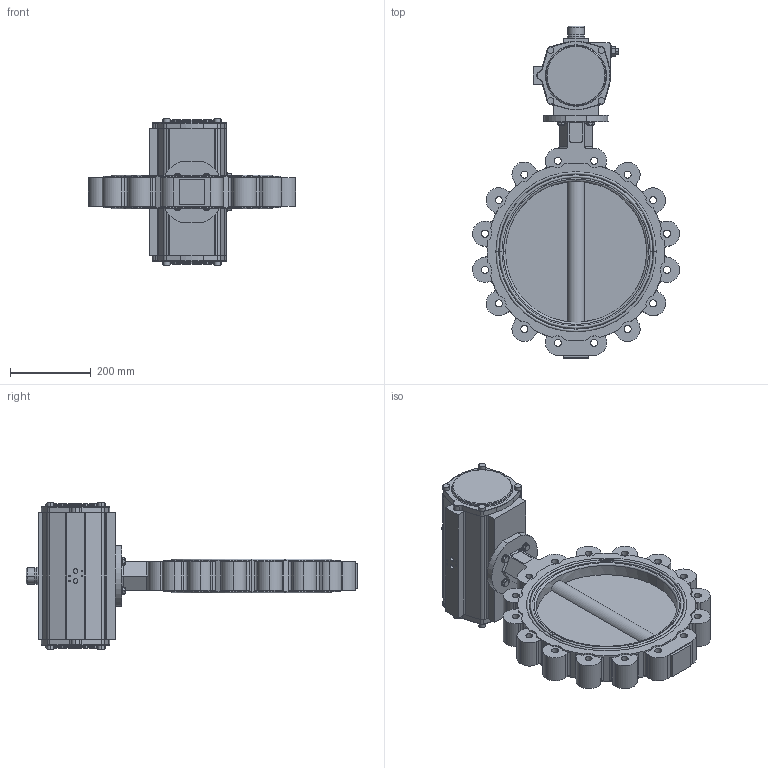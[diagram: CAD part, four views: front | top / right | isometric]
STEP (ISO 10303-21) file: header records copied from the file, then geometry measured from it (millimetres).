
FILE_DESCRIPTION (( 'STEP AP214' ), '1' );
FILE_NAME ('67718.step', '2020-10-26T07:28:14', ( '' ), ( '' ), 'SwSTEP 2.0', 'SolidWorks 2019', '' );
FILE_SCHEMA (( 'AUTOMOTIVE_DESIGN' ));
Length unit declared in the file: millimetre
Products named in the file (6): TL20-0350_M01; 6kt-Schr DIN 933_M10x30; Achtkantreduktion 27-22 mm; U-Scheibe DIN 125 A_M10; 67718; DA0850-V27_01
Assembly tree (11 placements, depth 2):
  67718
    TL20-0350_M01
    DA0850-V27_01
    6kt-Schr DIN 933_M10x30  x4
    U-Scheibe DIN 125 A_M10  x4
    Achtkantreduktion 27-22 mm
Bounding box: 513.15 x 822.5 x 363 mm (x, y, z)
Volume: 18948649.2 mm3; surface area: 1104037.8 mm2
Topology: 13 solids, 13 shells, 797 faces, 2012 edges, 1288 vertices
Faces by surface type: cylinder 373, plane 333, torus 44, cone 41, bspline 6
Entity records: 24499 total; most frequent: CARTESIAN_POINT 4211, DIRECTION 4040, ORIENTED_EDGE 3616, EDGE_CURVE 1808, AXIS2_PLACEMENT_3D 1575, VERTEX_POINT 1168, VECTOR 890, LINE 890
